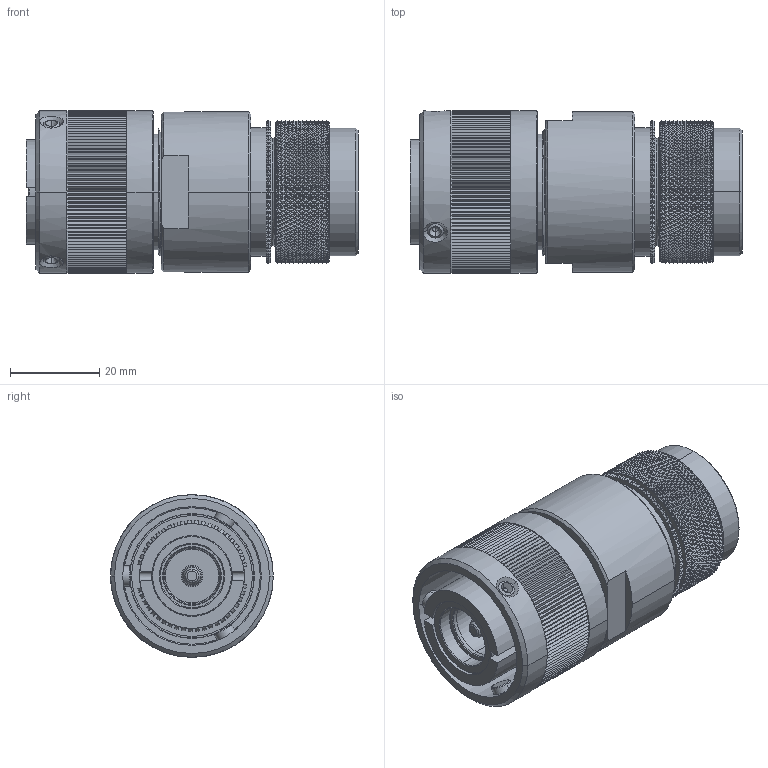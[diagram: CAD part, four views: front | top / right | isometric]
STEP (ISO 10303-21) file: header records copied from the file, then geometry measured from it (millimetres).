
FILE_DESCRIPTION((''),'2;1');
FILE_NAME('GCE3106E18M50P-B-T14_SW0001','2023-06-06T10:37:36',('paultorloting'),('NET AG system integration'),'CREO PARAMETRIC BY PTC INC, 2021404','CREO PARAMETRIC BY PTC INC, 2021404','');
FILE_SCHEMA(('AUTOMOTIVE_DESIGN { 1 0 10303 214 1 1 1 1 }'));
Products named in the file (1): GCE3106E18M50P-B-T14_SW0001
Bounding box: 74.5 x 36.5 x 36.5 mm (x, y, z)
Volume: 55955.2 mm3; surface area: 22258.6 mm2
Topology: 1 solids, 2 shells, 8243 faces, 15837 edges, 7539 vertices
Faces by surface type: bspline 6097, plane 1862, cylinder 186, cone 70, torus 28
Entity records: 309298 total; most frequent: CARTESIAN_POINT 179421, ORIENTED_EDGE 31662, EDGE_CURVE 15831, B_SPLINE_CURVE_WITH_KNOTS 10633, DIRECTION 9836, EDGE_LOOP 8378, FACE_OUTER_BOUND 8243, ADVANCED_FACE 8243
